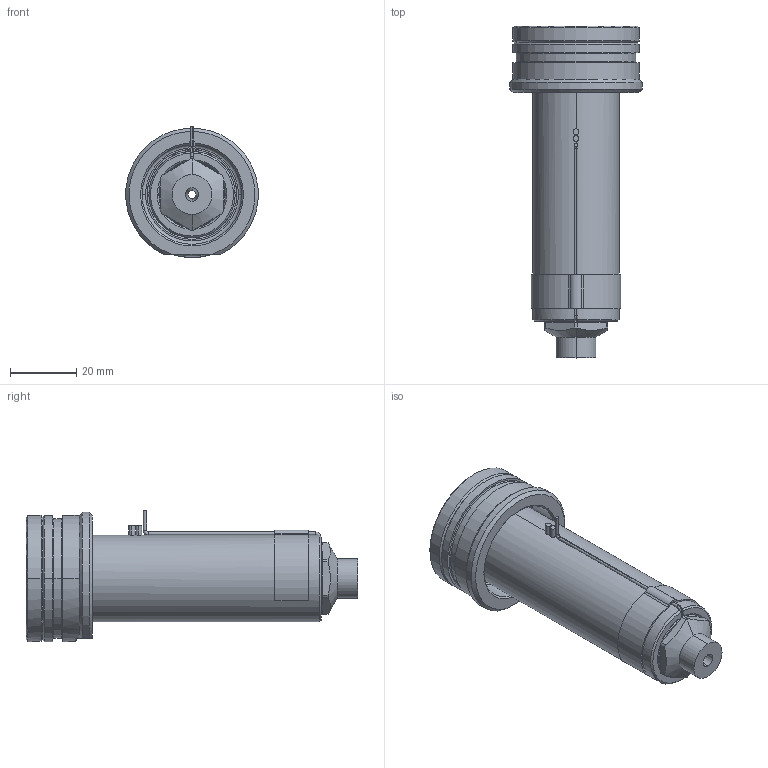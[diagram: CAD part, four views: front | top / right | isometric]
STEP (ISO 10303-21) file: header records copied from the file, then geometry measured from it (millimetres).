
FILE_DESCRIPTION((''),'2;1');
FILE_NAME('EO08_VG-ST_STD_080_SW','2024-02-19T12:42:10',('sundharh'),(''),'CREO PARAMETRIC BY PTC INC, 2023154','CREO PARAMETRIC BY PTC INC, 2023154','');
FILE_SCHEMA(('CONFIG_CONTROL_DESIGN'));
Length unit declared in the file: millimetre
Products named in the file (1): EO08_VG-ST_STD_080_SW
Bounding box: 39.88 x 100 x 39.52 mm (x, y, z)
Volume: 54510.7 mm3; surface area: 16462.7 mm2
Topology: 1 solids, 1 shells, 174 faces, 438 edges, 269 vertices
Faces by surface type: cylinder 64, plane 44, cone 37, torus 19, bspline 8, sphere 2
Entity records: 6477 total; most frequent: CARTESIAN_POINT 2213, DIRECTION 941, ORIENTED_EDGE 868, EDGE_CURVE 434, AXIS2_PLACEMENT_3D 390, VERTEX_POINT 269, CIRCLE 224, EDGE_LOOP 189
